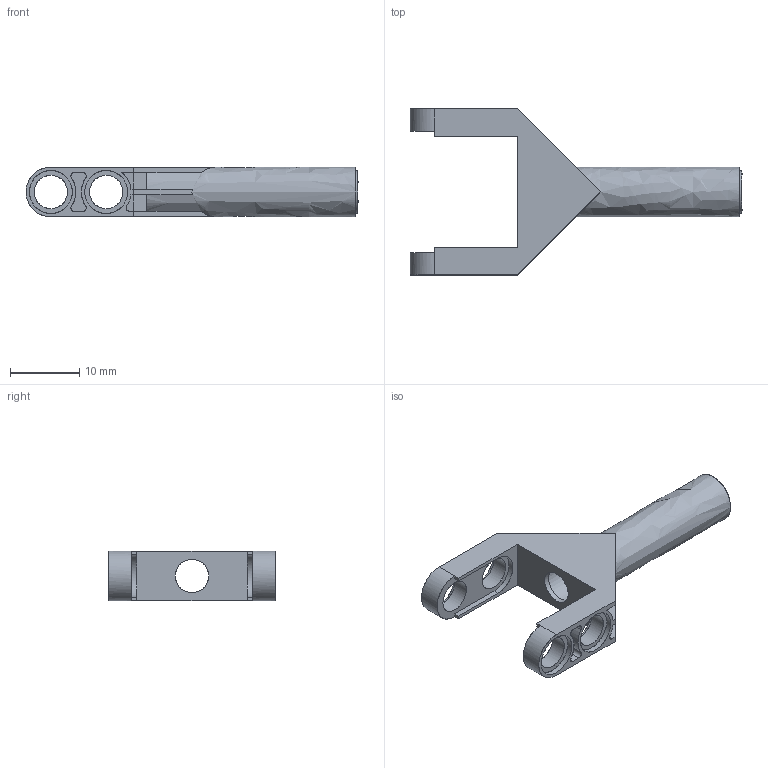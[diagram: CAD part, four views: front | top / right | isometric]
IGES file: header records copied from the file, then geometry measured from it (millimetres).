
Start section: C
Global section: file name: ClGray_4612100_b)_AVV.iges; native system: By Siemens PLM Incorporated; preprocessor: XPlus GENERIC/IGES 26.1.183; author: Author; organization: Title; date: 20250721.235727; units: millimetre
Bounding box: 48 x 24 x 7.2 mm (x, y, z)
Surface area: 2922.3 mm2 (no closed solid volume)
Topology: 0 solids, 0 shells, 100 faces, 572 edges, 572 vertices
Faces by surface type: bspline 100
